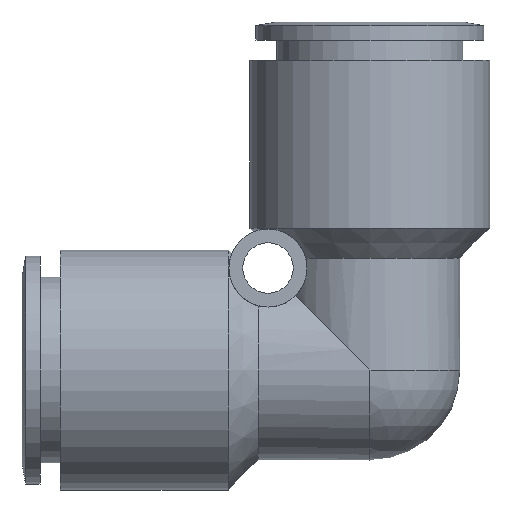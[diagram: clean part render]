
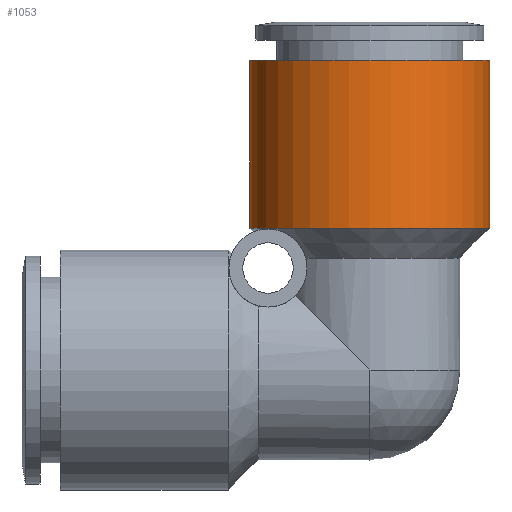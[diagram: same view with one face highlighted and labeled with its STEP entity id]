
A CAD part, left-side view. The second image highlights one B-rep face of the part: STEP entity #1053.
In plain terms, the highlighted cylindrical face has radius 10 mm (diameter 20 mm), a full revolution.
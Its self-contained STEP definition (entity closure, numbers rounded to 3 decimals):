
#656=CARTESIAN_POINT('',(-10.0,0.,11.8));
#657=VERTEX_POINT('',#656);
#658=CARTESIAN_POINT('',(0.0,0.,11.8));
#659=DIRECTION('',(0.0,0.0,1.0));
#660=DIRECTION('',(-1.0,0.0,0.0));
#661=AXIS2_PLACEMENT_3D('',#658,#659,#660);
#662=CIRCLE('',#661,10.0);
#663=EDGE_CURVE('',#657,#657,#662,.T.);
#1034=CARTESIAN_POINT('',(0.0,0.,18.8));
#1035=DIRECTION('',(0.0,0.,1.0));
#1036=DIRECTION('',(-1.0,0.0,0.0));
#1037=AXIS2_PLACEMENT_3D('',#1034,#1035,#1036);
#1038=CYLINDRICAL_SURFACE('',#1037,10.0);
#1039=CARTESIAN_POINT('',(-10.0,0.,25.8));
#1040=VERTEX_POINT('',#1039);
#1041=CARTESIAN_POINT('',(0.0,0.,25.8));
#1042=DIRECTION('',(0.0,0.0,1.0));
#1043=DIRECTION('',(-1.0,0.0,0.0));
#1044=AXIS2_PLACEMENT_3D('',#1041,#1042,#1043);
#1045=CIRCLE('',#1044,10.0);
#1046=EDGE_CURVE('',#1040,#1040,#1045,.T.);
#1047=ORIENTED_EDGE('',*,*,#1046,.F.);
#1048=EDGE_LOOP('',(#1047));
#1049=FACE_OUTER_BOUND('',#1048,.T.);
#1050=ORIENTED_EDGE('',*,*,#663,.T.);
#1051=EDGE_LOOP('',(#1050));
#1052=FACE_BOUND('',#1051,.T.);
#1053=ADVANCED_FACE('',(#1049,#1052),#1038,.T.);
